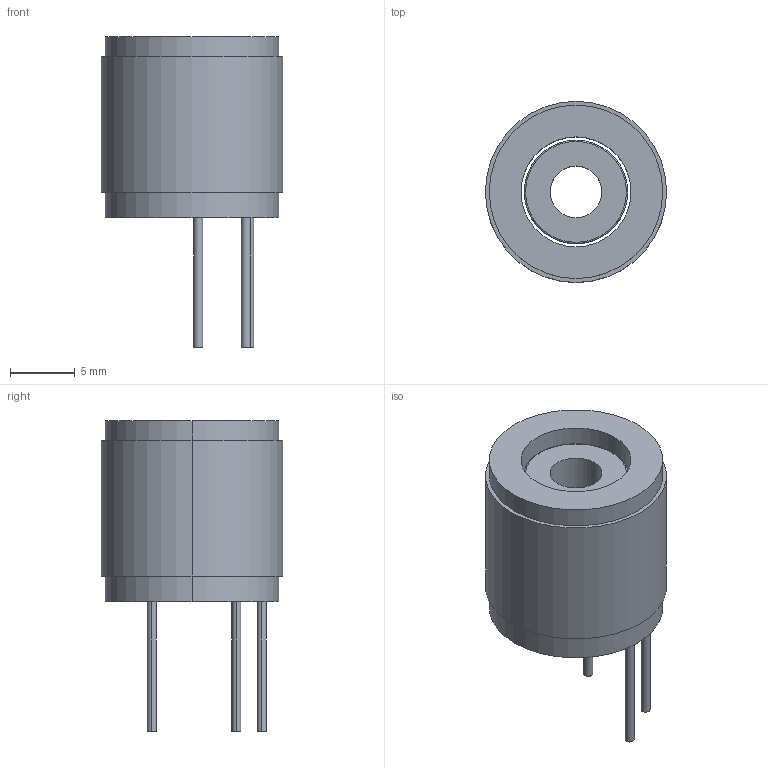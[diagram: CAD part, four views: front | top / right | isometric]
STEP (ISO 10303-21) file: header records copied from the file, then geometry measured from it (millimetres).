
FILE_DESCRIPTION (( 'STEP AP203' ), '1' );
FILE_NAME ('U1414 萇儂耀倰.STEP', '2026-09-18T00:31:19', ( 'Windows User' ), ( 'P R C' ), 'SwSTEP 2.0', 'SolidWorks 2023', '' );
FILE_SCHEMA (( 'CONFIG_CONTROL_DESIGN' ));
Length unit declared in the file: millimetre
Products named in the file (1): U1414 电机模型
Bounding box: 14 x 14 x 24 mm (x, y, z)
Volume: 1741.6 mm3; surface area: 1731.3 mm2
Topology: 2 solids, 2 shells, 31 faces, 62 edges, 40 vertices
Faces by surface type: cylinder 18, plane 9, torus 4
Entity records: 911 total; most frequent: DIRECTION 170, CARTESIAN_POINT 134, ORIENTED_EDGE 124, AXIS2_PLACEMENT_3D 76, EDGE_CURVE 62, CIRCLE 44, EDGE_LOOP 40, VERTEX_POINT 40
